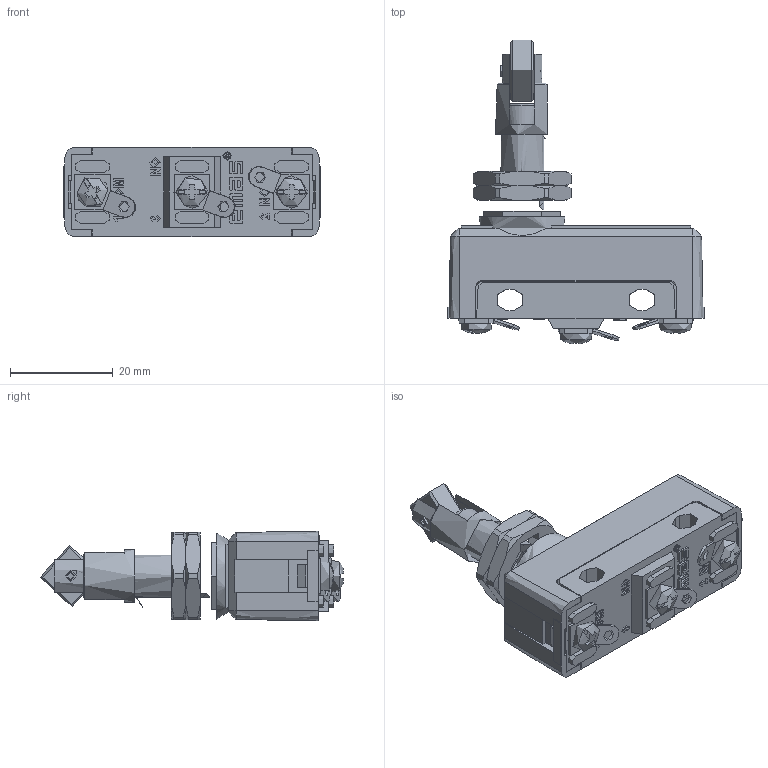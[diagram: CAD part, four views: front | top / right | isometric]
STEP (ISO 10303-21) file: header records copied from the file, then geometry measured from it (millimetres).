
FILE_DESCRIPTION((''),'2; 1');
FILE_NAME('','2026-03-27T16:30:20',(''),(''),'CST STEP Exporter V1.0','Unknown','');
FILE_SCHEMA(('CONFIG_CONTROL_DESIGN'));
Length unit declared in the file: metre
Assembly tree (15 placements, depth 2):
  (unnamed)
    (unnamed)
    (unnamed)
    (unnamed)
    (unnamed)
    (unnamed)
    (unnamed)
    (unnamed)
    (unnamed)
    (unnamed)
    (unnamed)
    (unnamed)
    (unnamed)
    (unnamed)
    (unnamed)
    (unnamed)
Bounding box: 50 x 59.2 x 17.5 mm (x, y, z)
Topology: 0 solids, 55 shells, 534 faces, 1617 edges, 1133 vertices
Faces by surface type: plane 333, cylinder 97, extrusion 54, cone 44, bspline 3, sphere 3
Full cylindrical faces by diameter (mm): 1.2 x1, 1.4 x1, 1.8 x1, 2.1 x1, 2.2 x3, 2.3 x1, 3.1 x1, 8 x1, 8.1 x1, 8.3 x1, 10.4 x1, 12 x2, 16.8 x1
Entity records: 25102 total; most frequent: CARTESIAN_POINT 6526, ORIENTED_EDGE 2914, DIRECTION 2549, EDGE_CURVE 1647, VERTEX_POINT 1154, VECTOR 1089, LINE 1037, AXIS2_PLACEMENT_3D 730
